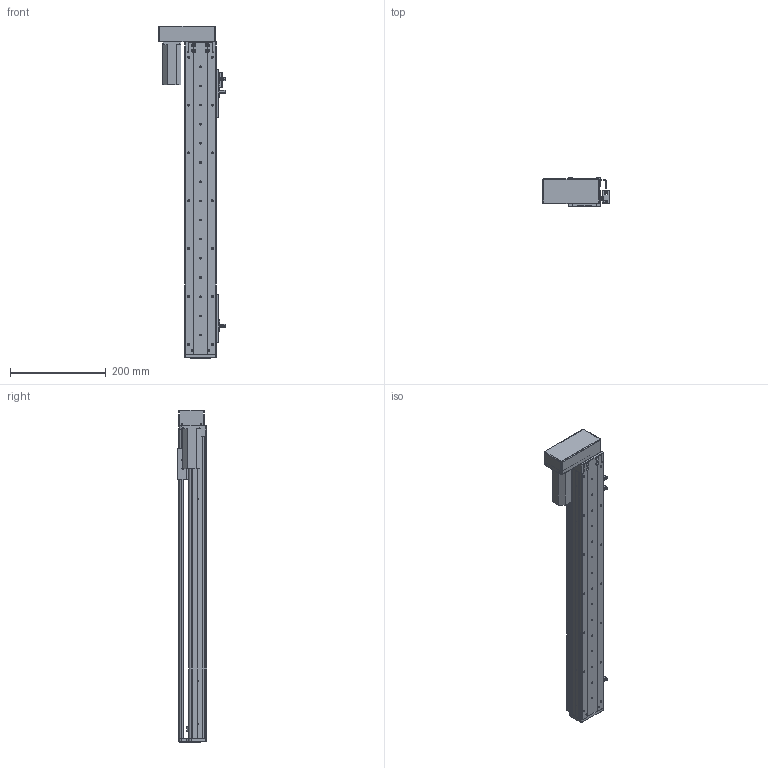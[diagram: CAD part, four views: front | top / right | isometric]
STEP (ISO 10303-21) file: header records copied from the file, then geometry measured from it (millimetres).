
FILE_DESCRIPTION (( 'STEP AP203' ), '1' );
FILE_NAME ('RY60-L1210-300-LK.SLDASM_500.step', '2021-02-20T06:54:01', ( '盈信电脑' ), ( '东莞市道滘镇水果街19号' ), 'SwSTEP 2.0', 'SolidWorks 2012', '' );
FILE_SCHEMA (( 'CONFIG_CONTROL_DESIGN' ));
Products named in the file (14): RY60-L1210-300-LK.SLDASM_500; 侂狟100W; RY60酘衵殏萇儂欶; RY60左右折电机安装板-PCD46-M4; RY80俋离覜茼え; 滅袉蝶18-10; 覜茼ん672; RY60转折电机端支撑座; 672嫖萇羲壽假蚾釱; RY60-300倰第裔啣-LK_500; RY60綴裔啣; RY60臏賑輸; RY60-300-MGW12絳寢-LK_500; RY60-300倰第菁釱-LK_500
Assembly tree (19 placements, depth 2):
  RY60-L1210-300-LK.SLDASM_500
    RY60-300倰第菁釱-LK_500
    RY60-300-MGW12絳寢-LK_500
    RY60臏賑輸
    RY60-300倰第裔啣-LK_500
    672嫖萇羲壽假蚾釱  x2
    RY60綴裔啣
    覜茼ん672  x3
    RY80俋离覜茼え
    滅袉蝶18-10  x4
    RY60转折电机端支撑座
    RY60左右折电机安装板-PCD46-M4
    侂狟100W
    RY60酘衵殏萇儂欶
Bounding box: 137.9 x 61 x 693 mm (x, y, z)
Volume: 1031537.8 mm3; surface area: 503548.3 mm2
Topology: 19 solids, 19 shells, 1532 faces, 4253 edges, 2730 vertices
Faces by surface type: plane 742, cylinder 665, cone 108, bspline 17
Entity records: 46087 total; most frequent: CARTESIAN_POINT 10793, ORIENTED_EDGE 7074, DIRECTION 6955, EDGE_CURVE 3537, AXIS2_PLACEMENT_3D 2422, VERTEX_POINT 2310, VECTOR 2111, LINE 2111
